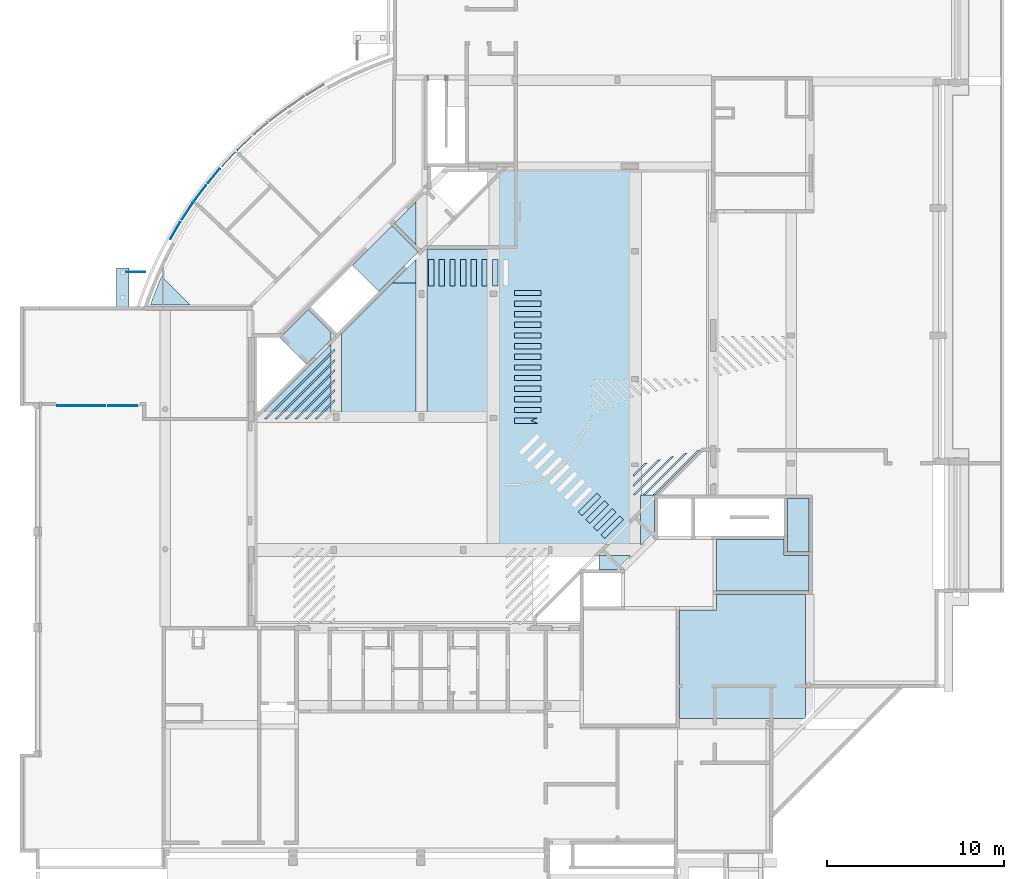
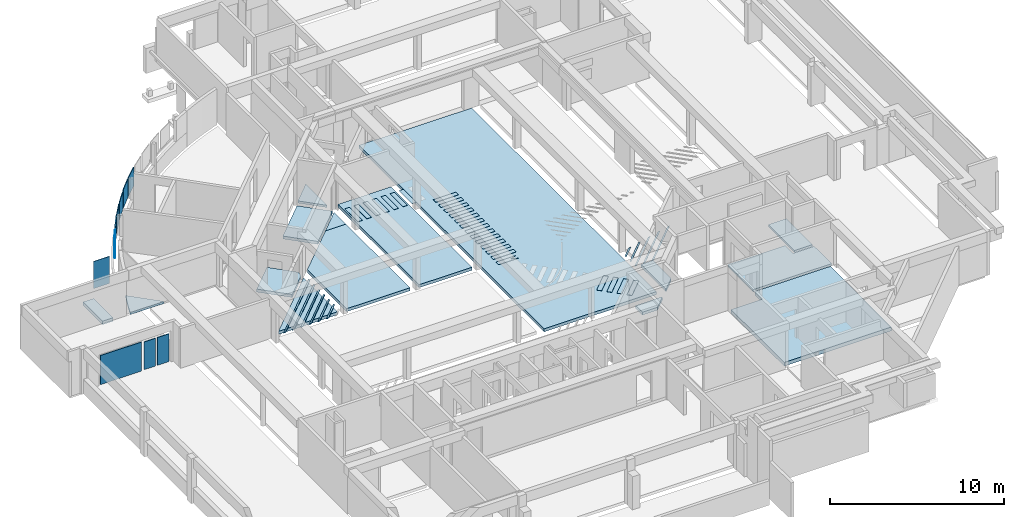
# One storey, part 5 of 22: 45 slabs, 10 plates.
"""IFC4X3_ADD2 building model written with IfcOpenShell, lengths in millimetres."""

from ifc_helpers import new_model, si_unit, point, direction, frame, frame_2d, origin_with_axes, origin_2d_with_axis, place, context, subcontext, project, spatial, polyline, circle_curve, trimmed, segment, composite_curve, rectangle, outline, extrude, source, transform, mapped, material, type_object, type_shapes, element, save


model = new_model("IFC4X3_ADD2")

# Units and contexts
model_context = context("Model", 3, precision=1e-05, world=origin_with_axes(), true_north=direction((0.0, 1.0)))
body_context = subcontext(model_context, "Body", "Model", "MODEL_VIEW")
ifc_project = project(units=[si_unit("LENGTHUNIT", "METRE", prefix="MILLI"), si_unit("AREAUNIT", "SQUARE_METRE"), si_unit("VOLUMEUNIT", "CUBIC_METRE"), si_unit("PLANEANGLEUNIT", "RADIAN"), si_unit("TIMEUNIT", "SECOND"), si_unit("MASSUNIT", "GRAM")], contexts=[model_context])

# Site, building, storey
site_placement = place(None, origin_with_axes())
site = spatial("IfcSite", under=ifc_project, at=site_placement, Name="Site", CompositionType="ELEMENT")
building_placement = place(site_placement, origin_with_axes())
building = spatial("IfcBuilding", under=site, at=building_placement, Name="IFC Building Story")
storey_placement = place(building_placement, frame((0.0, 0.0, -3240.0), z_axis=(0.0, 0.0, 1.0), x_axis=(1.0, 0.0, 0.0)))
storey = spatial("IfcBuildingStorey", under=building, at=storey_placement, Name="K10", Elevation=-3240.0)

# Slabs
ifc_material_1 = material(Name="BB_Beton_Bestaand")
slab_type_1 = type_object("IfcSlabType", Name="BB_Beton_Bestaand 200", PredefinedType="FLOOR", material=ifc_material_1)
slab_1_placement = place(storey_placement, frame((-29350.00000000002, 33410.30303802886, -200.0), z_axis=(0.0, 0.0, 1.0), x_axis=(-0.7071067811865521, -0.707106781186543, 0.0)))
element("IfcSlab", 1, at=slab_1_placement, inside=storey, type_object=slab_type_1, Name="Floor:BB_XX_Vloer welfsels, 200 mm", ObjectType="Floor:BB_XX_Vloer welfsels, 200 mm", PredefinedType="FLOOR", context=body_context, shape_type="SweptSolid", body=[
    extrude(outline(polyline([(963.033905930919, -321.0113019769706), (-963.0339059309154, -321.0113019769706), (3.637978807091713e-12, 642.0226039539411), (963.033905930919, -321.0113019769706)])), frame((963.0339059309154, 321.0113019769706, 0.0), z_axis=(0.0, 0.0, 1.0), x_axis=(1.0, 0.0, 0.0)), (0.0, 0.0, 1.0), 200.0),
])
slab_2_placement = place(storey_placement, frame((-16700.00000000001, 20099.99999999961, -200.0), z_axis=(0.0, 0.0, 1.0), x_axis=(0.0, -1.0, 0.0)))
element("IfcSlab", 2, at=slab_2_placement, inside=storey, type_object=slab_type_1, Name="Floor:BB_XX_Vloer uit beton, 200 mm", ObjectType="Floor:BB_XX_Vloer uit beton, 200 mm", PredefinedType="FLOOR", context=body_context, shape_type="SweptSolid", body=[
    extrude(outline(polyline([(540.5887450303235, 458.8528137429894), (1264.852813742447, -265.4112549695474), (1264.852813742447, -326.1471862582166), (-1535.147186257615, -326.1471862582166), (-1535.147186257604, 458.8528137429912), (540.5887450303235, 458.8528137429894)])), frame((1535.147186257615, 326.1471862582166, 0.0), z_axis=(0.0, 0.0, 1.0), x_axis=(1.0, 0.0, 0.0)), (0.0, 0.0, 1.0), 200.0),
])
slab_3_placement = place(storey_placement, frame((-19036.46866720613, 15914.99999999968, -200.0), z_axis=(0.0, 0.0, 1.0), x_axis=(1.0, 0.0, 0.0)))
element("IfcSlab", 3, at=slab_3_placement, inside=storey, type_object=slab_type_1, Name="Floor:BB_XX_Vloer uit beton, 200 mm", ObjectType="Floor:BB_XX_Vloer uit beton, 200 mm", PredefinedType="FLOOR", context=body_context, shape_type="SweptSolid", body=[
    extrude(outline(polyline([(839.4402806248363, 265.4112549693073), (115.1762119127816, -458.85281374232), (-897.0283865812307, -458.85281374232), (-897.0283865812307, 326.1471862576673), (839.4402806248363, 326.1471862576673), (839.4402806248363, 265.4112549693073)])), frame((897.0283865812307, 458.85281374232, 0.0), z_axis=(0.0, 0.0, 1.0), x_axis=(1.0, 0.0, 0.0)), (0.0, 0.0, 1.0), 200.0),
])
slab_4_placement = place(storey_placement, frame((-30719.00667860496, 35293.98755288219, -400.0), z_axis=(0.0, 0.0, 1.0), x_axis=(-0.7071067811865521, -0.707106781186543, 0.0)))
element("IfcSlab", 4, at=slab_4_placement, inside=storey, type_object=slab_type_1, Name="Floor:BB_XX_Vloer uit beton, 200 mm", ObjectType="Floor:BB_XX_Vloer uit beton, 200 mm", PredefinedType="FLOOR", context=body_context, shape_type="SweptSolid", body=[
    extrude(rectangle(XDim=3139.999999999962, YDim=2099.99999999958, at=frame_2d((0.0, 0.0), x_axis=(-1.0, 0.0))), frame((1569.999999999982, 1049.999999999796, 0.0), z_axis=(0.0, 0.0, 1.0), x_axis=(1.0, 0.0, 0.0)), (0.0, 0.0, 1.0), 200.0),
])
slab_type_2 = type_object("IfcSlabType", Name="Floor_BB_XX_Vloer uit beton_ 210 mm", PredefinedType="NOTDEFINED")
shared_shape_1 = source(origin_with_axes(), body_context, "Body", "SweptSolid", [
    extrude(outline(polyline([(1303.421798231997, 2606.843596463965), (1303.421798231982, -1303.421798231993), (-2606.843596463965, -1303.421798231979), (1303.421798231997, 2606.843596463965)])), frame((-35453.421798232, 26003.4217982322, -210.0), z_axis=(0.0, 0.0, 1.0), x_axis=(1.0, 0.0, 0.0)), (0.0, 0.0, 1.0), 210.0),
    extrude(outline(polyline([(-276.6940881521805, -1552.947480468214), (-1768.708218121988, -60.93335049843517), (-175.1385039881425, 1532.636363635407), (1110.270405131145, 247.2274545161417), (1110.270405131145, -165.9829871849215), (-276.6940881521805, -1552.947480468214)])), frame((-35260.27040513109, 29044.9489587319, -210.0), z_axis=(0.0, 0.0, 1.0), x_axis=(1.0, 0.0, 0.0)), (0.0, 0.0, 1.0), 210.0),
])
type_shapes(slab_type_2, [shared_shape_1])
slab_5_placement = place(storey_placement, origin_with_axes())
element("IfcSlab", 5, at=slab_5_placement, inside=storey, type_object=slab_type_2, material=ifc_material_1, Name="Floor:BB_XX_Vloer uit beton, 210 mm", ObjectType="Floor:BB_XX_Vloer uit beton, 210 mm", PredefinedType="FLOOR", context=body_context, shape_type="MappedRepresentation", body=[
    mapped(shared_shape_1, transform((0.0, 0.0, 0.0))),
])

# Plates
ifc_material_2 = material(Name="BB_Glas")
shared_shape_2 = source(origin_with_axes(), body_context, "Body", "SweptSolid", [
    extrude(rectangle(XDim=1320.000000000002, YDim=1108.000000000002, at=frame_2d((0.0, 0.0), x_axis=(0.0, 1.0))), frame((0.0, 0.0, -44.0), z_axis=(0.0, 0.0, 1.0), x_axis=(1.0, 0.0, 0.0)), (0.0, 0.0, 1.0), 44.0),
])
plate_1_placement = place(storey_placement, frame((-39062.3461774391, 39947.1786933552, 1585.0), z_axis=(-0.6895881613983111, 0.7242017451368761, 0.0), x_axis=(-0.7242017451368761, -0.6895881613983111, 0.0)))
element("IfcPlate", 6, at=plate_1_placement, inside=storey, material=ifc_material_2, Name="BB_07.06_Buitenbeglazing, rechthoekig_GMO:07.06.72#02_Drievoudige beglazing, 44 mm, A/A*/P4A RC2, -1 en +0", ObjectType="BB_07.06_Buitenbeglazing, rechthoekig_GMO:07.06.72#02_Drievoudige beglazing, 44 mm, A/A*/P4A RC2, -1 en +0", PredefinedType="USERDEFINED", context=body_context, shape_type="MappedRepresentation", body=[
    mapped(shared_shape_2, transform((0.0, 0.0, 0.0))),
])
shared_shape_3 = source(origin_with_axes(), body_context, "Body", "SweptSolid", [
    extrude(rectangle(XDim=1320.000000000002, YDim=1108.000000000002, at=frame_2d((0.0, 0.0), x_axis=(0.0, 1.0))), frame((0.0, 0.0, -44.0), z_axis=(0.0, 0.0, 1.0), x_axis=(1.0, 0.0, 0.0)), (0.0, 0.0, 1.0), 44.0),
])
for number, where, z_axis, x_axis in (
    (7, (-39945.5783730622, 39058.2626890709, 1585.0), (-0.7286114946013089, 0.6849272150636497, 0.0), (0.6849272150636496, 0.7286114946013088, 0.0)),
    (8, (-41554.0413640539, 37141.5746727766, 1585.0), (-0.8007150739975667, 0.5990453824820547, 0.0), (0.5990453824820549, 0.8007150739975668, 0.0)),
    (9, (-42274.8508320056, 36120.3390225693, 1585.0), (-0.83263998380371, 0.553814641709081, 0.0), (0.553814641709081, 0.83263998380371, 0.0)),
):
    element("IfcPlate", number, at=place(storey_placement, frame(where, z_axis=z_axis, x_axis=x_axis)), inside=storey, material=ifc_material_2, Name="BB_07.06_Buitenbeglazing, rechthoekig_GMO:07.06.72#02_Drievoudige beglazing, 44 mm, A/A*/P4A RC2, -1 en +0", ObjectType="BB_07.06_Buitenbeglazing, rechthoekig_GMO:07.06.72#02_Drievoudige beglazing, 44 mm, A/A*/P4A RC2, -1 en +0", PredefinedType="USERDEFINED", context=body_context, shape_type="MappedRepresentation", body=[
        mapped(shared_shape_3, transform((0.0, 0.0, 0.0))),
    ])
shared_shape_4 = source(origin_with_axes(), body_context, "Body", "SweptSolid", [
    extrude(rectangle(XDim=1242.000000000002, YDim=1030.000000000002, at=frame_2d((0.0, 0.0), x_axis=(0.0, 1.0))), frame((0.0, 0.0, -44.0), z_axis=(0.0, 0.0, 1.0), x_axis=(1.0, 0.0, 0.0)), (0.0, 0.0, 1.0), 44.0),
])
plate_2_placement = place(storey_placement, frame((-40775.5845333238, 38123.6552319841, 1585.0), z_axis=(-0.7661062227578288, 0.642713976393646, 0.0), x_axis=(0.642713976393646, 0.7661062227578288, 0.0)))
element("IfcPlate", 10, at=plate_2_placement, inside=storey, material=ifc_material_2, Name="BB_07.06_Buitenbeglazing, rechthoekig_GMO:07.06.72#02_Drievoudige beglazing, 44 mm, A/A*/P4A RC2, -1 en +0", ObjectType="BB_07.06_Buitenbeglazing, rechthoekig_GMO:07.06.72#02_Drievoudige beglazing, 44 mm, A/A*/P4A RC2, -1 en +0", PredefinedType="USERDEFINED", context=body_context, shape_type="MappedRepresentation", body=[
    mapped(shared_shape_4, transform((0.0, 0.0, 0.0))),
])
shared_shape_5 = source(origin_with_axes(), body_context, "Body", "SweptSolid", [
    extrude(rectangle(XDim=1242.000000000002, YDim=1096.000000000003, at=frame_2d((0.0, 0.0), x_axis=(0.0, 1.0))), frame((0.0, 0.0, -44.0), z_axis=(0.0, 0.0, 1.0), x_axis=(1.0, 0.0, 0.0)), (0.0, 0.0, 1.0), 44.0),
])
plate_3_placement = place(storey_placement, frame((-42955.5616505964, 35029.4203907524, 1585.0), z_axis=(-0.8626056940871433, 0.5058768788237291, 0.0), x_axis=(-0.5058768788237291, -0.8626056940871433, 0.0)))
element("IfcPlate", 11, at=plate_3_placement, inside=storey, material=ifc_material_2, Name="BB_07.06_Buitenbeglazing, rechthoekig_GMO:07.06.72#02_Drievoudige beglazing, 44 mm, A/A*/P4A RC2, -1 en +0", ObjectType="BB_07.06_Buitenbeglazing, rechthoekig_GMO:07.06.72#02_Drievoudige beglazing, 44 mm, A/A*/P4A RC2, -1 en +0", PredefinedType="USERDEFINED", context=body_context, shape_type="MappedRepresentation", body=[
    mapped(shared_shape_5, transform((0.0, 0.0, 0.0))),
])
shared_shape_6 = source(origin_with_axes(), body_context, "Body", "SweptSolid", [
    extrude(rectangle(XDim=1942.500000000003, YDim=755.000000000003, at=frame_2d((0.0, 0.0), x_axis=(0.0, 1.0))), frame((0.0, 0.0, -44.0), z_axis=(0.0, 0.0, 1.0), x_axis=(1.0, 0.0, 0.0)), (0.0, 0.0, 1.0), 44.0),
])
plate_4_placement = place(storey_placement, frame((-46337.4999999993, 25159.0, 1059.24999999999), z_axis=(0.0, 1.0, 0.0), x_axis=(1.0, 0.0, 0.0)))
element("IfcPlate", 12, at=plate_4_placement, inside=storey, material=ifc_material_2, Name="BB_07.06_Buitenbeglazing, rechthoekig_GMO:07.06.72#04_Drievoudige beglazing, 44 mm, 2B2/A*/2B2", ObjectType="BB_07.06_Buitenbeglazing, rechthoekig_GMO:07.06.72#04_Drievoudige beglazing, 44 mm, 2B2/A*/2B2", PredefinedType="USERDEFINED", context=body_context, shape_type="MappedRepresentation", body=[
    mapped(shared_shape_6, transform((0.0, 0.0, 0.0))),
])
shared_shape_7 = source(origin_with_axes(), body_context, "Body", "SweptSolid", [
    extrude(rectangle(XDim=1942.500000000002, YDim=780.000000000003, at=frame_2d((0.0, 0.0), x_axis=(0.0, 1.0))), frame((0.0, 0.0, -44.0), z_axis=(0.0, 0.0, 1.0), x_axis=(1.0, 0.0, 0.0)), (0.0, 0.0, 1.0), 44.0),
])
plate_5_placement = place(storey_placement, frame((-45445.0, 25159.0, 1059.24999999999), z_axis=(0.0, 1.0, 0.0), x_axis=(-1.0, 0.0, 0.0)))
element("IfcPlate", 13, at=plate_5_placement, inside=storey, material=ifc_material_2, Name="BB_07.06_Buitenbeglazing, rechthoekig_GMO:07.06.72#04_Drievoudige beglazing, 44 mm, 2B2/A*/2B2", ObjectType="BB_07.06_Buitenbeglazing, rechthoekig_GMO:07.06.72#04_Drievoudige beglazing, 44 mm, 2B2/A*/2B2", PredefinedType="USERDEFINED", context=body_context, shape_type="MappedRepresentation", body=[
    mapped(shared_shape_7, transform((0.0, 0.0, 0.0))),
])
shared_shape_8 = source(origin_with_axes(), body_context, "Body", "SweptSolid", [
    extrude(rectangle(XDim=2720.0, YDim=2038.0, at=origin_2d_with_axis()), frame((0.0, 0.0, -44.0), z_axis=(0.0, 0.0, 1.0), x_axis=(1.0, 0.0, 0.0)), (0.0, 0.0, 1.0), 44.0),
])
plate_6_placement = place(storey_placement, frame((-48247.4999999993, 25113.0, 1074.0), z_axis=(0.0, -1.0, 0.0), x_axis=(1.0, 0.0, 0.0)))
element("IfcPlate", 14, at=plate_6_placement, inside=storey, material=ifc_material_2, Name="BB_07.06_Buitenbeglazing, rechthoekig_GMO:07.06.72#01_Drievoudige beglazing, 44 mm, A/A*/A", ObjectType="BB_07.06_Buitenbeglazing, rechthoekig_GMO:07.06.72#01_Drievoudige beglazing, 44 mm, A/A*/A", PredefinedType="USERDEFINED", context=body_context, shape_type="MappedRepresentation", body=[
    mapped(shared_shape_8, transform((0.0, 0.0, 0.0))),
])
shared_shape_9 = source(origin_with_axes(), body_context, "Body", "SweptSolid", [
    extrude(rectangle(XDim=1896.000000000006, YDim=1058.000000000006, at=frame_2d((0.0, 0.0), x_axis=(0.0, 1.0))), frame((0.0, 0.0, -40.0), z_axis=(0.0, 0.0, 1.0), x_axis=(1.0, 0.0, 0.0)), (0.0, 0.0, 1.0), 40.0),
])
plate_7_placement = place(storey_placement, frame((-45170.0, 32657.000954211, 1786.0), z_axis=(0.0, -1.0, 0.0), x_axis=(-1.0, 0.0, 0.0)))
element("IfcPlate", 15, at=plate_7_placement, inside=storey, material=ifc_material_2, Name="BB_07.06_Buitenbeglazing, rechthoekig_GMO:XX_Geen", ObjectType="BB_07.06_Buitenbeglazing, rechthoekig_GMO:XX_Geen", PredefinedType="USERDEFINED", context=body_context, shape_type="MappedRepresentation", body=[
    mapped(shared_shape_9, transform((0.0, 0.0, 0.0))),
])

# Slabs
ifc_material_3 = material(Name="BB_Belijning parkeervakken_Nieuw")
slab_type_3 = type_object("IfcSlabType", Name="BB_Belijning parkeervakken_Nieuw 10", PredefinedType="FLOOR", material=ifc_material_3)
slab_6_placement = place(storey_placement, frame((-23800.00000000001, 24149.9999999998, 0.0), z_axis=(0.0, 0.0, 1.0), x_axis=(1.0, 0.0, 0.0)))
element("IfcSlab", 16, at=slab_6_placement, inside=storey, type_object=slab_type_3, Name="Floor:BB_13.XX_Epoxyverf, belijning zebrapaden", ObjectType="Floor:BB_13.XX_Epoxyverf, belijning zebrapaden", PredefinedType="FLOOR", context=body_context, shape_type="SweptSolid", body=[
    extrude(outline(polyline([(200.0000000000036, 7.748894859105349e-10), (600.0000000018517, -150.0000000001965), (-700.0000000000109, -150.0000000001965), (-700.0000000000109, 149.9999999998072), (599.9999999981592, 149.9999999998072), (200.0000000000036, 7.748894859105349e-10)])), frame((700.0000000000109, 150.0000000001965, 0.0), z_axis=(0.0, 0.0, 1.0), x_axis=(1.0, 0.0, 0.0)), (0.0, 0.0, 1.0), 9.99999999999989),
])
for number, where, z_axis, x_axis, name in (
    (17, (-23800.0, 24750.0, 0.0), (0.0, 0.0, 1.0), (1.0, 0.0, 0.0), "Floor:BB_13.XX_Epoxyverf, belijning zebrapaden"),
    (18, (-23800.0, 25350.0, 0.0), (0.0, 0.0, 1.0), (1.0, 0.0, 0.0), "Floor:BB_13.XX_Epoxyverf, belijning zebrapaden"),
    (19, (-23800.0, 25950.0, 0.0), (0.0, 0.0, 1.0), (1.0, 0.0, 0.0), "Floor:BB_13.XX_Epoxyverf, belijning zebrapaden"),
    (20, (-23800.0, 26550.0, 0.0), (0.0, 0.0, 1.0), (1.0, 0.0, 0.0), "Floor:BB_13.XX_Epoxyverf, belijning zebrapaden"),
    (21, (-23800.0, 27150.0, 0.0), (0.0, 0.0, 1.0), (1.0, 0.0, 0.0), "Floor:BB_13.XX_Epoxyverf, belijning zebrapaden"),
    (22, (-23800.0, 27750.0, 0.0), (0.0, 0.0, 1.0), (1.0, 0.0, 0.0), "Floor:BB_13.XX_Epoxyverf, belijning zebrapaden"),
    (23, (-23800.0, 28350.0, 0.0), (0.0, 0.0, 1.0), (1.0, 0.0, 0.0), "Floor:BB_13.XX_Epoxyverf, belijning zebrapaden"),
    (24, (-23800.0, 28950.0, 0.0), (0.0, 0.0, 1.0), (1.0, 0.0, 0.0), "Floor:BB_13.XX_Epoxyverf, belijning zebrapaden"),
    (25, (-23800.0, 29550.0, 0.0), (0.0, 0.0, 1.0), (1.0, 0.0, 0.0), "Floor:BB_13.XX_Epoxyverf, belijning zebrapaden"),
    (26, (-23800.0, 30150.0, 0.0), (0.0, 0.0, 1.0), (1.0, 0.0, 0.0), "Floor:BB_13.XX_Epoxyverf, belijning zebrapaden"),
    (27, (-23800.0, 30750.0, 0.0), (0.0, 0.0, 1.0), (1.0, 0.0, 0.0), "Floor:BB_13.XX_Epoxyverf, belijning zebrapaden"),
    (28, (-23800.0, 31350.0, 0.0), (0.0, 0.0, 1.0), (1.0, 0.0, 0.0), "Floor:BB_13.XX_Epoxyverf, belijning zebrapaden"),
):
    element("IfcSlab", number, at=place(storey_placement, frame(where, z_axis=z_axis, x_axis=x_axis)), inside=storey, type_object=slab_type_3, Name=name, ObjectType="Floor:BB_13.XX_Epoxyverf, belijning zebrapaden", PredefinedType="FLOOR", context=body_context, shape_type="SweptSolid", body=[
        extrude(rectangle(XDim=1499.999999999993, YDim=300.0, at=origin_2d_with_axis()), frame((750.0, 150.0, 0.0), z_axis=(0.0, 0.0, 1.0), x_axis=(1.0, 0.0, 0.0)), (0.0, 0.0, 1.0), 9.99999999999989),
    ])
slab_7_placement = place(storey_placement, frame((-25050.0, 33400.0, 0.0), z_axis=(0.0, 0.0, 1.0), x_axis=(0.0, -1.0, 0.0)))
element("IfcSlab", 29, at=slab_7_placement, inside=storey, type_object=slab_type_3, Name="Floor:BB_13.XX_Epoxyverf, belijning zebrapaden", ObjectType="Floor:BB_13.XX_Epoxyverf, belijning zebrapaden", PredefinedType="FLOOR", context=body_context, shape_type="SweptSolid", body=[
    extrude(rectangle(XDim=1500.0, YDim=299.9999999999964, at=frame_2d((0.0, 0.0), x_axis=(-1.0, 0.0))), frame((750.0, 150.0, 0.0), z_axis=(0.0, 0.0, 1.0), x_axis=(1.0, 0.0, 0.0)), (0.0, 0.0, 1.0), 9.99999999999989),
])
for number, where, z_axis, x_axis, name in (
    (30, (-25650.0, 33400.0, 0.0), (0.0, 0.0, 1.0), (0.0, -1.0, 0.0), "Floor:BB_13.XX_Epoxyverf, belijning zebrapaden"),
    (31, (-26250.0, 33400.0, 0.0), (0.0, 0.0, 1.0), (0.0, -1.0, 0.0), "Floor:BB_13.XX_Epoxyverf, belijning zebrapaden"),
    (32, (-26850.0, 33400.0, 0.0), (0.0, 0.0, 1.0), (0.0, -1.0, 0.0), "Floor:BB_13.XX_Epoxyverf, belijning zebrapaden"),
):
    element("IfcSlab", number, at=place(storey_placement, frame(where, z_axis=z_axis, x_axis=x_axis)), inside=storey, type_object=slab_type_3, Name=name, ObjectType="Floor:BB_13.XX_Epoxyverf, belijning zebrapaden", PredefinedType="FLOOR", context=body_context, shape_type="SweptSolid", body=[
        extrude(rectangle(XDim=1500.0, YDim=299.9999999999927, at=frame_2d((0.0, 0.0), x_axis=(-1.0, 0.0))), frame((750.0, 150.0, 0.0), z_axis=(0.0, 0.0, 1.0), x_axis=(1.0, 0.0, 0.0)), (0.0, 0.0, 1.0), 9.99999999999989),
    ])
slab_8_placement = place(storey_placement, frame((-27450.0, 33400.0, 0.0), z_axis=(0.0, 0.0, 1.0), x_axis=(0.0, -1.0, 0.0)))
element("IfcSlab", 33, at=slab_8_placement, inside=storey, type_object=slab_type_3, Name="Floor:BB_13.XX_Epoxyverf, belijning zebrapaden", ObjectType="Floor:BB_13.XX_Epoxyverf, belijning zebrapaden", PredefinedType="FLOOR", context=body_context, shape_type="SweptSolid", body=[
    extrude(rectangle(XDim=1500.0, YDim=299.9999999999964, at=frame_2d((0.0, 0.0), x_axis=(-1.0, 0.0))), frame((750.0, 150.0, 0.0), z_axis=(0.0, 0.0, 1.0), x_axis=(1.0, 0.0, 0.0)), (0.0, 0.0, 1.0), 9.99999999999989),
])
for number, where, z_axis, x_axis, name in (
    (34, (-28050.0, 33400.0, 0.0), (0.0, 0.0, 1.0), (0.0, -1.0, 0.0), "Floor:BB_13.XX_Epoxyverf, belijning zebrapaden"),
    (35, (-28650.0, 33400.0, 0.0), (0.0, 0.0, 1.0), (0.0, -1.0, 0.0), "Floor:BB_13.XX_Epoxyverf, belijning zebrapaden"),
):
    element("IfcSlab", number, at=place(storey_placement, frame(where, z_axis=z_axis, x_axis=x_axis)), inside=storey, type_object=slab_type_3, Name=name, ObjectType="Floor:BB_13.XX_Epoxyverf, belijning zebrapaden", PredefinedType="FLOOR", context=body_context, shape_type="SweptSolid", body=[
        extrude(rectangle(XDim=1500.0, YDim=299.9999999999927, at=frame_2d((0.0, 0.0), x_axis=(-1.0, 0.0))), frame((750.0, 150.0, 0.0), z_axis=(0.0, 0.0, 1.0), x_axis=(1.0, 0.0, 0.0)), (0.0, 0.0, 1.0), 9.99999999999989),
    ])
slab_9_placement = place(storey_placement, frame((-19142.28355337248, 20202.94372515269, 0.0), z_axis=(0.0, 0.0, 1.0), x_axis=(-0.7071067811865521, -0.707106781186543, 0.0)))
element("IfcSlab", 36, at=slab_9_placement, inside=storey, type_object=slab_type_3, Name="Floor:BB_13.XX_Epoxyverf, belijning zebrapaden", ObjectType="Floor:BB_13.XX_Epoxyverf, belijning zebrapaden", PredefinedType="FLOOR", context=body_context, shape_type="SweptSolid", body=[
    extrude(rectangle(XDim=1499.999999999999, YDim=299.9999999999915, at=frame_2d((0.0, 0.0), x_axis=(-1.0, 0.0))), frame((750.0, 150.0, 0.0), z_axis=(0.0, 0.0, 1.0), x_axis=(1.0, 0.0, 0.0)), (0.0, 0.0, 1.0), 9.99999999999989),
])
slab_10_placement = place(storey_placement, frame((-18718.01948466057, 19778.67965644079, 0.0), z_axis=(0.0, 0.0, 1.0), x_axis=(-0.7071067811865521, -0.707106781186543, 0.0)))
element("IfcSlab", 37, at=slab_10_placement, inside=storey, type_object=slab_type_3, Name="Floor:BB_13.XX_Epoxyverf, belijning zebrapaden", ObjectType="Floor:BB_13.XX_Epoxyverf, belijning zebrapaden", PredefinedType="FLOOR", context=body_context, shape_type="SweptSolid", body=[
    extrude(rectangle(XDim=1499.999999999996, YDim=299.999999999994, at=frame_2d((0.0, 0.0), x_axis=(-1.0, 0.0))), frame((750.0, 150.0, 0.0), z_axis=(0.0, 0.0, 1.0), x_axis=(1.0, 0.0, 0.0)), (0.0, 0.0, 1.0), 9.99999999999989),
])
for number, where, z_axis, x_axis, name in (
    (38, (-18293.75541594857, 19354.41558772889, 0.0), (0.0, 0.0, 1.0), (-0.7071067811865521, -0.707106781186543, 0.0), "Floor:BB_13.XX_Epoxyverf, belijning zebrapaden"),
    (39, (-17869.49134723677, 18930.15151901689, 0.0), (0.0, 0.0, 1.0), (-0.7071067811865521, -0.707106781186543, 0.0), "Floor:BB_13.XX_Epoxyverf, belijning zebrapaden"),
):
    element("IfcSlab", number, at=place(storey_placement, frame(where, z_axis=z_axis, x_axis=x_axis)), inside=storey, type_object=slab_type_3, Name=name, ObjectType="Floor:BB_13.XX_Epoxyverf, belijning zebrapaden", PredefinedType="FLOOR", context=body_context, shape_type="SweptSolid", body=[
        extrude(rectangle(XDim=1499.999999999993, YDim=299.9999999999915, at=frame_2d((0.0, 0.0), x_axis=(-1.0, 0.0))), frame((750.0, 150.0, 0.0), z_axis=(0.0, 0.0, 1.0), x_axis=(1.0, 0.0, 0.0)), (0.0, 0.0, 1.0), 9.99999999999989),
    ])
slab_11_placement = place(storey_placement, frame((-33950.00000000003, 28347.99423149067, 0.0), z_axis=(0.0, 0.0, 1.0), x_axis=(-0.7071067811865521, -0.707106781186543, 0.0)))
element("IfcSlab", 40, at=slab_11_placement, inside=storey, type_object=slab_type_3, Name="Floor:BB_13.XX_Epoxyverf, belijning arcering", ObjectType="Floor:BB_13.XX_Epoxyverf, belijning arcering", PredefinedType="FLOOR", context=body_context, shape_type="SweptSolid", body=[
    extrude(outline(polyline([(-2691.653493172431, 50.0), (2691.653493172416, 50.00000000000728), (2791.653493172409, -49.99999999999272), (-2791.653493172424, -49.99999999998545), (-2691.653493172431, 50.0)])), frame((2791.653493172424, 49.99999999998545, 0.0), z_axis=(0.0, 0.0, 1.0), x_axis=(1.0, 0.0, 0.0)), (0.0, 0.0, 1.0), 9.99999999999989),
])
slab_12_placement = place(storey_placement, frame((-33950.00000000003, 27782.30880654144, 0.0), z_axis=(0.0, 0.0, 1.0), x_axis=(-0.7071067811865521, -0.707106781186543, 0.0)))
element("IfcSlab", 41, at=slab_12_placement, inside=storey, type_object=slab_type_3, Name="Floor:BB_13.XX_Epoxyverf, belijning arcering:2", ObjectType="Floor:BB_13.XX_Epoxyverf, belijning arcering", PredefinedType="FLOOR", context=body_context, shape_type="SweptSolid", body=[
    extrude(outline(polyline([(-2291.653493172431, 50.0), (2291.653493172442, 49.99999999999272), (2391.653493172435, -50.0), (-2391.653493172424, -50.0), (-2291.653493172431, 50.0)])), frame((2391.653493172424, 50.0, 0.0), z_axis=(0.0, 0.0, 1.0), x_axis=(1.0, 0.0, 0.0)), (0.0, 0.0, 1.0), 9.99999999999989),
])
slab_13_placement = place(storey_placement, frame((-33950.00000000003, 27216.62338159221, 0.0), z_axis=(0.0, 0.0, 1.0), x_axis=(-0.7071067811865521, -0.707106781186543, 0.0)))
element("IfcSlab", 42, at=slab_13_placement, inside=storey, type_object=slab_type_3, Name="Floor:BB_13.XX_Epoxyverf, belijning arcering:3", ObjectType="Floor:BB_13.XX_Epoxyverf, belijning arcering", PredefinedType="FLOOR", context=body_context, shape_type="SweptSolid", body=[
    extrude(outline(polyline([(-1891.653493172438, 49.99999999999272), (1891.653493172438, 49.99999999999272), (1991.653493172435, -50.0), (-1991.653493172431, -50.0), (-1891.653493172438, 49.99999999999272)])), frame((1991.653493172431, 50.0, 0.0), z_axis=(0.0, 0.0, 1.0), x_axis=(1.0, 0.0, 0.0)), (0.0, 0.0, 1.0), 9.99999999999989),
])
slab_14_placement = place(storey_placement, frame((-33950.00000000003, 26650.93795664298, 0.0), z_axis=(0.0, 0.0, 1.0), x_axis=(-0.7071067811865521, -0.707106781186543, 0.0)))
element("IfcSlab", 43, at=slab_14_placement, inside=storey, type_object=slab_type_3, Name="Floor:BB_13.XX_Epoxyverf, belijning arcering:4", ObjectType="Floor:BB_13.XX_Epoxyverf, belijning arcering", PredefinedType="FLOOR", context=body_context, shape_type="SweptSolid", body=[
    extrude(outline(polyline([(-1491.653493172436, 49.99999999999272), (1491.65349317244, 49.99999999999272), (1591.653493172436, -50.0), (-1591.653493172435, -50.00000000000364), (-1491.653493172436, 49.99999999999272)])), frame((1591.653493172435, 49.99999999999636, 0.0), z_axis=(0.0, 0.0, 1.0), x_axis=(1.0, 0.0, 0.0)), (0.0, 0.0, 1.0), 9.99999999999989),
])
slab_15_placement = place(storey_placement, frame((-33950.00000000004, 26085.25253169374, 0.0), z_axis=(0.0, 0.0, 1.0), x_axis=(-0.7071067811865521, -0.707106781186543, 0.0)))
element("IfcSlab", 44, at=slab_15_placement, inside=storey, type_object=slab_type_3, Name="Floor:BB_13.XX_Epoxyverf, belijning arcering:5", ObjectType="Floor:BB_13.XX_Epoxyverf, belijning arcering", PredefinedType="FLOOR", context=body_context, shape_type="SweptSolid", body=[
    extrude(outline(polyline([(-1091.653493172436, 49.99999999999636), (1091.65349317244, 49.99999999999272), (1191.653493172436, -50.00000000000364), (-1191.653493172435, -50.00000000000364), (-1091.653493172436, 49.99999999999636)])), frame((1191.653493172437, 49.99999999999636, 0.0), z_axis=(0.0, 0.0, 1.0), x_axis=(1.0, 0.0, 0.0)), (0.0, 0.0, 1.0), 9.99999999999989),
])
slab_16_placement = place(storey_placement, frame((-33950.00000000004, 25519.56710674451, 0.0), z_axis=(0.0, 0.0, 1.0), x_axis=(-0.7071067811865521, -0.707106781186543, 0.0)))
element("IfcSlab", 45, at=slab_16_placement, inside=storey, type_object=slab_type_3, Name="Floor:BB_13.XX_Epoxyverf, belijning arcering:6", ObjectType="Floor:BB_13.XX_Epoxyverf, belijning arcering", PredefinedType="FLOOR", context=body_context, shape_type="SweptSolid", body=[
    extrude(outline(polyline([(-691.6534931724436, 49.99999999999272), (691.6534931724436, 50.0), (791.6534931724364, -50.00000000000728), (-791.65349317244, -50.00000000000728), (-691.6534931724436, 49.99999999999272)])), frame((791.6534931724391, 50.0, 0.0), z_axis=(0.0, 0.0, 1.0), x_axis=(1.0, 0.0, 0.0)), (0.0, 0.0, 1.0), 9.99999999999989),
])
ifc_material_4 = material(Name="<Unnamed>")
slab_type_4 = type_object("IfcSlabType", Name="<Unnamed> 250", PredefinedType="FLOOR", material=ifc_material_4)
slab_17_placement = place(storey_placement, frame((-46252.62975904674, 32920.0644458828, -310.0), z_axis=(0.0, 0.0, 1.0), x_axis=(-1.495080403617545e-07, -0.999999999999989, 0.0)))
element("IfcSlab", 46, at=slab_17_placement, inside=storey, type_object=slab_type_4, Name="Foundation Slab:Foundation Slab 250 mm dik", ObjectType="Foundation Slab:Foundation Slab 250 mm dik", PredefinedType="FLOOR", context=body_context, shape_type="SweptSolid", body=[
    extrude(outline(polyline([(-1112.597215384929, -349.999916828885), (-1112.597320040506, 349.9997504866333), (1112.597215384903, 350.0000831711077), (1112.597320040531, -349.999916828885), (-1112.597215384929, -349.999916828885)])), frame((1112.597320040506, 349.999916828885, 0.0), z_axis=(0.0, 0.0, 1.0), x_axis=(1.0, 0.0, 0.0)), (0.0, 0.0, 1.0), 250.0),
])
ifc_material_5 = material(Name="BB_Belijning parkeervakken_Bestaand")
slab_type_5 = type_object("IfcSlabType", Name="Floor_BB_XX_Epoxyverf_ belijning arcering_ bestaand", PredefinedType="NOTDEFINED")
shared_shape_10 = source(origin_with_axes(), body_context, "Body", "SweptSolid", [
    extrude(outline(polyline([(-890.5892290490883, -874.7941259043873), (-890.5892290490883, -823.8273267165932), (1196.762058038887, 1263.523960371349), (1384.551072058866, 1309.891618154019), (-800.1346719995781, -874.7941259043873), (-890.5892290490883, -874.7941259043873)])), frame((-16209.4107709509, 20974.794125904, 0.0), z_axis=(0.0, 0.0, 1.0), x_axis=(1.0, 0.0, 0.0)), (0.0, 0.0, 1.0), 9.99999999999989),
    extrude(outline(polyline([(808.9393760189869, 738.2286979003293), (-715.0448690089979, -785.7555471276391), (-715.0448690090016, -644.3341908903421), (621.1503619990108, 691.861040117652), (808.9393760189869, 738.2286979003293)])), frame((-16384.955130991, 21360.986415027, 0.0), z_axis=(0.0, 0.0, 1.0), x_axis=(1.0, 0.0, 0.0)), (0.0, 0.0, 1.0), 9.99999999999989),
    extrude(outline(polyline([(-1244.196951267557, -1173.48627314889), (1079.591766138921, 1150.302444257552), (1267.380780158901, 1196.670102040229), (-1102.77559503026, -1173.48627314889), (-1244.196951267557, -1173.48627314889)])), frame((-15341.084422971, 21273.4862731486, 0.0), z_axis=(0.0, 0.0, 1.0), x_axis=(1.0, 0.0, 0.0)), (0.0, 0.0, 1.0), 9.99999999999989),
    extrude(outline(polyline([(433.3613479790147, 362.6506698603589), (-339.4668409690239, -410.1775190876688), (-339.4668409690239, -268.7561628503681), (245.5723339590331, 316.2830120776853), (433.3613479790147, 362.6506698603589)])), frame((-16760.533159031, 21551.0938119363, 0.0), z_axis=(0.0, 0.0, 1.0), x_axis=(1.0, 0.0, 0.0)), (0.0, 0.0, 1.0), 9.99999999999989),
    extrude(outline(polyline([(-1336.932266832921, -1266.221588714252), (1172.327081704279, 1243.03775982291), (1360.116095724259, 1289.405417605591), (-1195.510910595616, -1266.221588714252), (-1336.932266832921, -1266.221588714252)])), frame((-14682.66368245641, 21366.22158871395, 0.0), z_axis=(0.0, 0.0, 1.0), x_axis=(1.0, 0.0, 0.0)), (0.0, 0.0, 1.0), 9.99999999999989),
])
type_shapes(slab_type_5, [shared_shape_10])
slab_18_placement = place(storey_placement, origin_with_axes())
element("IfcSlab", 47, at=slab_18_placement, inside=storey, type_object=slab_type_5, material=ifc_material_5, Name="Floor:BB_XX_Epoxyverf, belijning arcering, bestaand", ObjectType="Floor:BB_XX_Epoxyverf, belijning arcering, bestaand", PredefinedType="FLOOR", context=body_context, shape_type="MappedRepresentation", body=[
    mapped(shared_shape_10, transform((0.0, 0.0, 0.0))),
])
slab_type_6 = type_object("IfcSlabType", Name="BB_Beton_Bestaand 210", PredefinedType="FLOOR", material=ifc_material_1)
slab_19_placement = place(storey_placement, frame((-33549.99999999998, 32048.36742723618, -210.0), z_axis=(0.0, 0.0, 1.0), x_axis=(0.0, -1.0, 0.0)))
element("IfcSlab", 48, at=slab_19_placement, inside=storey, type_object=slab_type_6, Name="Floor:BB_XX_Vloer welfsels, 210 mm", ObjectType="Floor:BB_XX_Vloer welfsels, 210 mm", PredefinedType="FLOOR", context=body_context, shape_type="SweptSolid", body=[
    extrude(outline(polyline([(-3506.959848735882, 1952.387122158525), (3841.407578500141, 1952.387122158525), (3841.40757850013, -2247.612877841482), (-668.8954595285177, -2247.612877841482), (-3506.959848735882, 590.451511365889), (-3506.959848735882, 1952.387122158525)])), frame((3506.959848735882, 2247.612877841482, 0.0), z_axis=(0.0, 0.0, 1.0), x_axis=(1.0, 0.0, 0.0)), (0.0, 0.0, 1.0), 210.0),
])
slab_20_placement = place(storey_placement, frame((-24749.99999999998, 38500.0000000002, -210.0), z_axis=(0.0, 0.0, 1.0), x_axis=(0.0, -1.0, 0.0)))
element("IfcSlab", 49, at=slab_20_placement, inside=storey, type_object=slab_type_6, Name="Floor:BB_XX_Vloer welfsels, 210 mm", ObjectType="Floor:BB_XX_Vloer welfsels, 210 mm", PredefinedType="FLOOR", context=body_context, shape_type="SweptSolid", body=[
    extrude(rectangle(XDim=21200.0000000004, YDim=7449.999999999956, at=frame_2d((0.0, 0.0), x_axis=(-1.0, 0.0))), frame((10600.0000000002, 3724.999999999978, 0.0), z_axis=(0.0, 0.0, 1.0), x_axis=(1.0, 0.0, 0.0)), (0.0, 0.0, 1.0), 210.0),
])
slab_21_placement = place(storey_placement, frame((-28750.0, 33989.9959341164, -210.0), z_axis=(0.0, 0.0, 1.0), x_axis=(0.0, -1.0, 0.0)))
element("IfcSlab", 50, at=slab_21_placement, inside=storey, type_object=slab_type_6, Name="Floor:BB_XX_Vloer welfsels, 210 mm", ObjectType="Floor:BB_XX_Vloer welfsels, 210 mm", PredefinedType="FLOOR", context=body_context, shape_type="SweptSolid", body=[
    extrude(rectangle(XDim=9289.995934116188, YDim=3500.0, at=frame_2d((0.0, 0.0), x_axis=(-1.0, 0.0))), frame((4644.997967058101, 1750.000000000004, 0.0), z_axis=(0.0, 0.0, 1.0), x_axis=(1.0, 0.0, 0.0)), (0.0, 0.0, 1.0), 210.0),
])
slab_type_7 = type_object("IfcSlabType", Name="BB_Beton_Bestaand 260", PredefinedType="FLOOR", material=ifc_material_1)
slab_22_placement = place(storey_placement, frame((-14500.00000000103, 7500.00000000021, -260.0), z_axis=(0.0, 0.0, 1.0), x_axis=(1.0, 0.0, 0.0)))
element("IfcSlab", 51, at=slab_22_placement, inside=storey, type_object=slab_type_7, Name="Floor:BB_XX_Vloer welfsels, 260 mm", ObjectType="Floor:BB_XX_Vloer welfsels, 260 mm", PredefinedType="FLOOR", context=body_context, shape_type="SweptSolid", body=[
    extrude(outline(polyline([(4036.66666666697, 2628.333333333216), (4036.666666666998, -4371.666666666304), (-3063.333333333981, -4371.666666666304), (-3063.333333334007, 1743.333333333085), (-973.3333333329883, 1743.333333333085), (-973.333333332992, 2628.333333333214), (4036.66666666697, 2628.333333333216)])), frame((3063.333333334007, 4371.666666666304, 0.0), z_axis=(0.0, 0.0, 1.0), x_axis=(1.0, 0.0, 0.0)), (0.0, 0.0, 1.0), 260.0),
])
slab_type_8 = type_object("IfcSlabType", Name="BB_Beton_Bestaand 150", PredefinedType="FLOOR", material=ifc_material_1)
slab_23_placement = place(storey_placement, frame((-12400.00000000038, 14699.99999999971, -150.0), z_axis=(0.0, 0.0, 1.0), x_axis=(1.0, 0.0, 0.0)))
element("IfcSlab", 52, at=slab_23_placement, inside=storey, type_object=slab_type_8, Name="Floor:BB_XX_Vloer uit beton, 150 mm", ObjectType="Floor:BB_XX_Vloer uit beton, 150 mm", PredefinedType="FLOOR", context=body_context, shape_type="SweptSolid", body=[
    extrude(outline(polyline([(2199.99999999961, 366.6666666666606), (2199.99999999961, -1633.333333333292), (-3000.00000000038, -1633.333333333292), (-3000.00000000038, 1266.666666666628), (800.0000000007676, 1266.666666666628), (800.0000000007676, 366.6666666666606), (2199.99999999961, 366.6666666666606)])), frame((3000.00000000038, 1633.333333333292, 0.0), z_axis=(0.0, 0.0, 1.0), x_axis=(1.0, 0.0, 0.0)), (0.0, 0.0, 1.0), 150.0),
])
slab_24_placement = place(storey_placement, frame((-8399.999999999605, 19899.99999999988, -150.0), z_axis=(0.0, 0.0, 1.0), x_axis=(0.0, -1.0, 0.0)))
element("IfcSlab", 53, at=slab_24_placement, inside=storey, type_object=slab_type_8, Name="Floor:BB_XX_Vloer uit beton, 150 mm", ObjectType="Floor:BB_XX_Vloer uit beton, 150 mm", PredefinedType="FLOOR", context=body_context, shape_type="SweptSolid", body=[
    extrude(rectangle(XDim=2999.99999999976, YDim=1199.999999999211, at=frame_2d((0.0, 0.0), x_axis=(-1.0, 0.0))), frame((1499.99999999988, 599.9999999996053, 0.0), z_axis=(0.0, 0.0, 1.0), x_axis=(1.0, 0.0, 0.0)), (0.0, 0.0, 1.0), 150.0),
])
slab_25_placement = place(storey_placement, frame((-30577.58532236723, 36662.99423148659, -150.0), z_axis=(0.0, 0.0, 1.0), x_axis=(0.0, -1.0, 0.0)))
element("IfcSlab", 54, at=slab_25_placement, inside=storey, type_object=slab_type_8, Name="Floor:BB_XX_Vloer uit beton, 150 mm", ObjectType="Floor:BB_XX_Vloer uit beton, 150 mm", PredefinedType="FLOOR", context=body_context, shape_type="SweptSolid", body=[
    extrude(outline(polyline([(1227.585322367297, 409.1951074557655), (0.0, -818.3902149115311), (-1227.585322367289, 409.1951074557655), (1227.585322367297, 409.1951074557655)])), frame((1227.585322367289, 818.3902149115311, 0.0), z_axis=(0.0, 0.0, 1.0), x_axis=(1.0, 0.0, 0.0)), (0.0, 0.0, 1.0), 150.0),
])
slab_26_placement = place(storey_placement, frame((-44833.57341830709, 31315.20163716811, -350.0), z_axis=(0.0, 0.0, 1.0), x_axis=(0.7071067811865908, -0.7071067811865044, 0.0)))
element("IfcSlab", 55, at=slab_26_placement, inside=storey, type_object=slab_type_8, Name="Floor:BB_XX_Vloer uit beton, 150 mm", ObjectType="Floor:BB_XX_Vloer uit beton, 150 mm", PredefinedType="FLOOR", context=body_context, shape_type="SweptSolid", body=[
    extrude(outline(composite_curve([segment(trimmed(circle_curve(origin_2d_with_axis(), 22038.17800305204), [point((-19822.51566320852, -9630.636659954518))], [point((-20515.7654667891, -8048.891663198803))], False, "CARTESIAN"), True, "CONTINUOUS"), segment(polyline([(-20515.7654667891, -8048.891663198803), (-18240.7706664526, -8048.891663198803)]), True, "CONTINUOUS"), segment(polyline([(-18240.7706664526, -8048.891663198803), (-19822.51566320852, -9630.636659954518)]), True, "CONTINUOUS")], self_intersect=False)), frame((20515.76546678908, 9630.636659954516, 0.0), z_axis=(0.0, 0.0, 1.0), x_axis=(1.0, 0.0, 0.0)), (0.0, 0.0, 1.0), 150.0),
])

save(model, "model.ifc")
